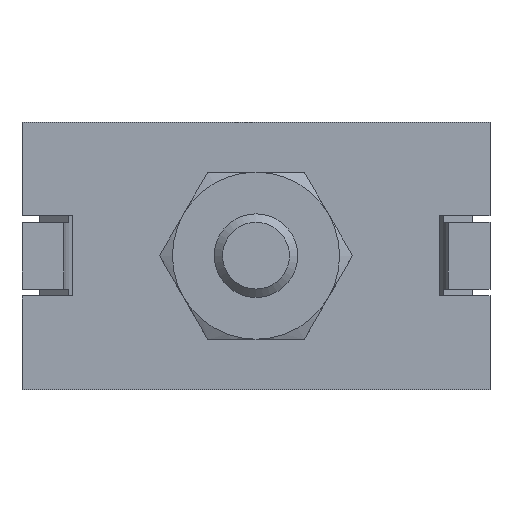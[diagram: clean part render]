
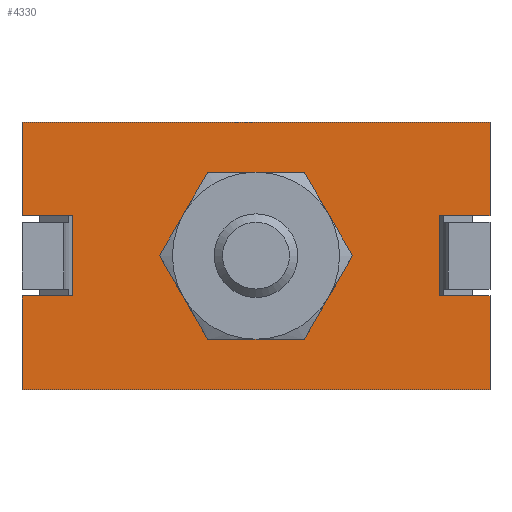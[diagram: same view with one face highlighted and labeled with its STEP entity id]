
A CAD part, top view. The second image highlights one B-rep face of the part: STEP entity #4330.
In plain terms, the highlighted planar face has unit normal (0, 0, 1).
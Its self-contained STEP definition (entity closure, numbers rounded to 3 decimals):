
#187=LINE('',#6495,#511);
#188=LINE('',#6497,#512);
#281=LINE('',#6688,#605);
#282=LINE('',#6691,#606);
#283=LINE('',#6693,#607);
#284=LINE('',#6695,#608);
#285=LINE('',#6697,#609);
#286=LINE('',#6699,#610);
#287=LINE('',#6701,#611);
#288=LINE('',#6703,#612);
#289=LINE('',#6705,#613);
#290=LINE('',#6707,#614);
#291=LINE('',#6709,#615);
#292=LINE('',#6711,#616);
#511=VECTOR('',#5336,1000.);
#512=VECTOR('',#5339,1000.);
#605=VECTOR('',#5440,1000.);
#606=VECTOR('',#5441,1000.);
#607=VECTOR('',#5442,1000.);
#608=VECTOR('',#5443,1000.);
#609=VECTOR('',#5444,1000.);
#610=VECTOR('',#5445,1000.);
#611=VECTOR('',#5446,1000.);
#612=VECTOR('',#5447,1000.);
#613=VECTOR('',#5448,1000.);
#614=VECTOR('',#5449,1000.);
#615=VECTOR('',#5450,1000.);
#616=VECTOR('',#5451,1000.);
#832=PLANE('',#4667);
#1556=ORIENTED_EDGE('',*,*,#2156,.T.);
#1557=ORIENTED_EDGE('',*,*,#2172,.T.);
#1558=ORIENTED_EDGE('',*,*,#2168,.T.);
#1559=ORIENTED_EDGE('',*,*,#2173,.F.);
#1560=ORIENTED_EDGE('',*,*,#2267,.T.);
#1561=ORIENTED_EDGE('',*,*,#2268,.T.);
#1562=ORIENTED_EDGE('',*,*,#2269,.T.);
#1563=ORIENTED_EDGE('',*,*,#2270,.F.);
#1564=ORIENTED_EDGE('',*,*,#2271,.F.);
#1565=ORIENTED_EDGE('',*,*,#2272,.F.);
#1566=ORIENTED_EDGE('',*,*,#2273,.T.);
#1567=ORIENTED_EDGE('',*,*,#2274,.T.);
#1568=ORIENTED_EDGE('',*,*,#2275,.T.);
#1569=ORIENTED_EDGE('',*,*,#2276,.F.);
#1570=ORIENTED_EDGE('',*,*,#2277,.F.);
#1571=ORIENTED_EDGE('',*,*,#2278,.F.);
#1572=ORIENTED_EDGE('',*,*,#2279,.T.);
#2156=EDGE_CURVE('',#2554,#2555,#2812,.T.);
#2168=EDGE_CURVE('',#2565,#2564,#2817,.F.);
#2172=EDGE_CURVE('',#2555,#2565,#187,.T.);
#2173=EDGE_CURVE('',#2554,#2564,#188,.T.);
#2267=EDGE_CURVE('',#2659,#2659,#2819,.F.);
#2268=EDGE_CURVE('',#2660,#2661,#281,.T.);
#2269=EDGE_CURVE('',#2661,#2662,#282,.T.);
#2270=EDGE_CURVE('',#2663,#2662,#283,.T.);
#2271=EDGE_CURVE('',#2664,#2663,#284,.T.);
#2272=EDGE_CURVE('',#2665,#2664,#285,.T.);
#2273=EDGE_CURVE('',#2665,#2666,#286,.T.);
#2274=EDGE_CURVE('',#2666,#2667,#287,.T.);
#2275=EDGE_CURVE('',#2667,#2668,#288,.T.);
#2276=EDGE_CURVE('',#2669,#2668,#289,.T.);
#2277=EDGE_CURVE('',#2670,#2669,#290,.T.);
#2278=EDGE_CURVE('',#2671,#2670,#291,.T.);
#2279=EDGE_CURVE('',#2671,#2660,#292,.T.);
#2554=VERTEX_POINT('',#6451);
#2555=VERTEX_POINT('',#6452);
#2564=VERTEX_POINT('',#6478);
#2565=VERTEX_POINT('',#6480);
#2659=VERTEX_POINT('',#6687);
#2660=VERTEX_POINT('',#6689);
#2661=VERTEX_POINT('',#6690);
#2662=VERTEX_POINT('',#6692);
#2663=VERTEX_POINT('',#6694);
#2664=VERTEX_POINT('',#6696);
#2665=VERTEX_POINT('',#6698);
#2666=VERTEX_POINT('',#6700);
#2667=VERTEX_POINT('',#6702);
#2668=VERTEX_POINT('',#6704);
#2669=VERTEX_POINT('',#6706);
#2670=VERTEX_POINT('',#6708);
#2671=VERTEX_POINT('',#6710);
#2812=CIRCLE('',#4649,4.55);
#2817=CIRCLE('',#4661,3.35);
#2819=CIRCLE('',#4668,3.25);
#2991=EDGE_LOOP('',(#1556,#1557,#1558,#1559));
#2992=EDGE_LOOP('',(#1560));
#2993=EDGE_LOOP('',(#1561,#1562,#1563,#1564,#1565,#1566,#1567,#1568,#1569,
#1570,#1571,#1572));
#3260=FACE_BOUND('',#2991,.T.);
#3261=FACE_BOUND('',#2992,.T.);
#3262=FACE_BOUND('',#2993,.T.);
#4330=ADVANCED_FACE('',(#3260,#3261,#3262),#832,.T.);
#4649=AXIS2_PLACEMENT_3D('',#6450,#5304,#5305);
#4661=AXIS2_PLACEMENT_3D('',#6479,#5330,#5331);
#4667=AXIS2_PLACEMENT_3D('',#6685,#5436,#5437);
#4668=AXIS2_PLACEMENT_3D('',#6686,#5438,#5439);
#5304=DIRECTION('',(0.,0.,-1.));
#5305=DIRECTION('',(1.,0.,0.));
#5330=DIRECTION('',(0.,0.,-1.));
#5331=DIRECTION('',(-1.,0.,0.));
#5336=DIRECTION('',(-1.,0.,0.));
#5339=DIRECTION('',(-1.,0.,0.));
#5436=DIRECTION('',(0.,0.,1.));
#5437=DIRECTION('',(1.,0.,0.));
#5438=DIRECTION('',(0.,0.,1.));
#5439=DIRECTION('',(1.,0.,0.));
#5440=DIRECTION('',(0.,-1.,0.));
#5441=DIRECTION('',(-1.,0.,0.));
#5442=DIRECTION('',(0.,1.,0.));
#5443=DIRECTION('',(-1.,0.,0.));
#5444=DIRECTION('',(0.,-1.,0.));
#5445=DIRECTION('',(-1.,0.,0.));
#5446=DIRECTION('',(0.,1.,0.));
#5447=DIRECTION('',(1.,0.,0.));
#5448=DIRECTION('',(0.,-1.,0.));
#5449=DIRECTION('',(1.,0.,0.));
#5450=DIRECTION('',(0.,1.,0.));
#5451=DIRECTION('',(1.,0.,0.));
#6450=CARTESIAN_POINT('',(0.,8.,2.15));
#6451=CARTESIAN_POINT('',(4.547,8.167,2.15));
#6452=CARTESIAN_POINT('',(4.534,8.379,2.15));
#6478=CARTESIAN_POINT('',(3.346,8.167,2.15));
#6479=CARTESIAN_POINT('',(0.,8.,2.15));
#6480=CARTESIAN_POINT('',(3.328,8.379,2.15));
#6495=CARTESIAN_POINT('',(9.395,8.379,2.15));
#6497=CARTESIAN_POINT('',(9.395,8.167,2.15));
#6685=CARTESIAN_POINT('',(14.,16.,2.15));
#6686=CARTESIAN_POINT('',(0.,8.,2.15));
#6687=CARTESIAN_POINT('',(3.25,8.,2.15));
#6688=CARTESIAN_POINT('',(-11.,16.,2.15));
#6689=CARTESIAN_POINT('',(-11.,10.4,2.15));
#6690=CARTESIAN_POINT('',(-11.,5.6,2.15));
#6691=CARTESIAN_POINT('',(14.,5.6,2.15));
#6692=CARTESIAN_POINT('',(-14.,5.6,2.15));
#6693=CARTESIAN_POINT('',(-14.,0.,2.15));
#6694=CARTESIAN_POINT('',(-14.,0.,2.15));
#6695=CARTESIAN_POINT('',(14.,0.,2.15));
#6696=CARTESIAN_POINT('',(14.,0.,2.15));
#6697=CARTESIAN_POINT('',(14.,16.,2.15));
#6698=CARTESIAN_POINT('',(14.,5.6,2.15));
#6699=CARTESIAN_POINT('',(14.,5.6,2.15));
#6700=CARTESIAN_POINT('',(11.,5.6,2.15));
#6701=CARTESIAN_POINT('',(11.,16.,2.15));
#6702=CARTESIAN_POINT('',(11.,10.4,2.15));
#6703=CARTESIAN_POINT('',(14.,10.4,2.15));
#6704=CARTESIAN_POINT('',(14.,10.4,2.15));
#6705=CARTESIAN_POINT('',(14.,16.,2.15));
#6706=CARTESIAN_POINT('',(14.,16.,2.15));
#6707=CARTESIAN_POINT('',(-14.,16.,2.15));
#6708=CARTESIAN_POINT('',(-14.,16.,2.15));
#6709=CARTESIAN_POINT('',(-14.,0.,2.15));
#6710=CARTESIAN_POINT('',(-14.,10.4,2.15));
#6711=CARTESIAN_POINT('',(14.,10.4,2.15));
